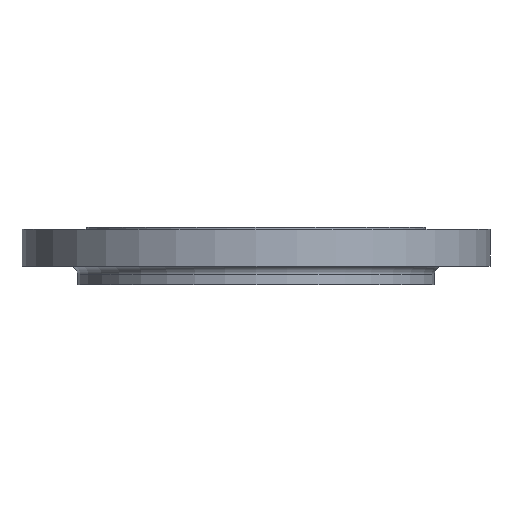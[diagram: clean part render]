
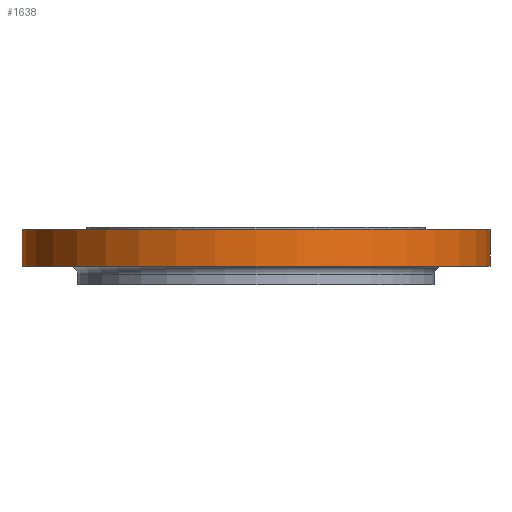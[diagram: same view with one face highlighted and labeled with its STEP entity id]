
A CAD part, front view. The second image highlights one B-rep face of the part: STEP entity #1638.
In plain terms, the highlighted cylindrical face has radius 342.5 mm (diameter 685 mm), a partial arc.
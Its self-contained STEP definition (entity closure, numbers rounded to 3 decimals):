
#131 = CARTESIAN_POINT ( 'NONE',  ( 0., 0., -150. ) ) ;
#174 = DIRECTION ( 'NONE',  ( 0., 0., 1. ) ) ;
#176 = CARTESIAN_POINT ( 'NONE',  ( 342.5, 0., -150. ) ) ;
#177 = LINE ( 'NONE', #176, #1753 ) ;
#200 = CARTESIAN_POINT ( 'NONE',  ( -342.5, 0., -57. ) ) ;
#388 = EDGE_CURVE ( 'NONE', #707, #709, #1213, .T. ) ;
#396 = CARTESIAN_POINT ( 'NONE',  ( 342.5, 0., -57. ) ) ;
#401 = CARTESIAN_POINT ( 'NONE',  ( -342.5, 0., -3. ) ) ;
#405 = CARTESIAN_POINT ( 'NONE',  ( 342.5, 0., -3. ) ) ;
#492 = EDGE_CURVE ( 'NONE', #1061, #709, #496, .T. ) ;
#494 = DIRECTION ( 'NONE',  ( 0., 0., 1. ) ) ;
#495 = CARTESIAN_POINT ( 'NONE',  ( -342.5, 0., -150. ) ) ;
#496 = LINE ( 'NONE', #495, #570 ) ;
#570 = VECTOR ( 'NONE', #494, 1000. ) ;
#586 = DIRECTION ( 'NONE',  ( -1., 0., 0. ) ) ;
#587 = DIRECTION ( 'NONE',  ( 0., 0., -1. ) ) ;
#588 = CARTESIAN_POINT ( 'NONE',  ( 0., 0., -3. ) ) ;
#707 = VERTEX_POINT ( 'NONE', #405 ) ;
#709 = VERTEX_POINT ( 'NONE', #401 ) ;
#712 = VERTEX_POINT ( 'NONE', #396 ) ;
#988 = DIRECTION ( 'NONE',  ( 0., 0., 1. ) ) ;
#1012 = ORIENTED_EDGE ( 'NONE', *, *, #388, .T. ) ;
#1013 = ORIENTED_EDGE ( 'NONE', *, *, #1097, .T. ) ;
#1016 = ORIENTED_EDGE ( 'NONE', *, *, #1680, .T. ) ;
#1020 = ORIENTED_EDGE ( 'NONE', *, *, #492, .F. ) ;
#1034 = CARTESIAN_POINT ( 'NONE',  ( 0., 0., -57. ) ) ;
#1061 = VERTEX_POINT ( 'NONE', #200 ) ;
#1097 = EDGE_CURVE ( 'NONE', #712, #707, #177, .T. ) ;
#1200 = FACE_OUTER_BOUND ( 'NONE', #1507, .T. ) ;
#1213 = CIRCLE ( 'NONE', #1215, 342.5 ) ;
#1215 = AXIS2_PLACEMENT_3D ( 'NONE', #588, #587, #586 ) ;
#1507 = EDGE_LOOP ( 'NONE', ( #1020, #1016, #1013, #1012 ) ) ;
#1632 = AXIS2_PLACEMENT_3D ( 'NONE', #131, #988, #1644 ) ;
#1638 = ADVANCED_FACE ( 'NONE', ( #1200 ), #1759, .T. ) ;
#1644 = DIRECTION ( 'NONE',  ( 1., 0., 0. ) ) ;
#1679 = DIRECTION ( 'NONE',  ( 0., 0., 1. ) ) ;
#1680 = EDGE_CURVE ( 'NONE', #1061, #712, #1707, .T. ) ;
#1707 = CIRCLE ( 'NONE', #1719, 342.5 ) ;
#1719 = AXIS2_PLACEMENT_3D ( 'NONE', #1034, #1679, #2003 ) ;
#1753 = VECTOR ( 'NONE', #174, 1000. ) ;
#1759 = CYLINDRICAL_SURFACE ( 'NONE', #1632, 342.5 ) ;
#2003 = DIRECTION ( 'NONE',  ( 1., 0., 0. ) ) ;
